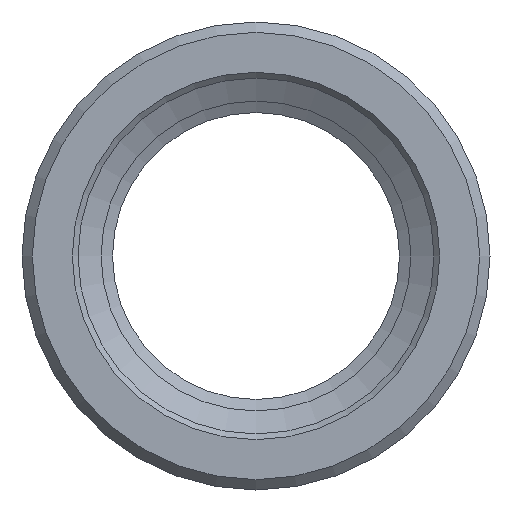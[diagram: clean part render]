
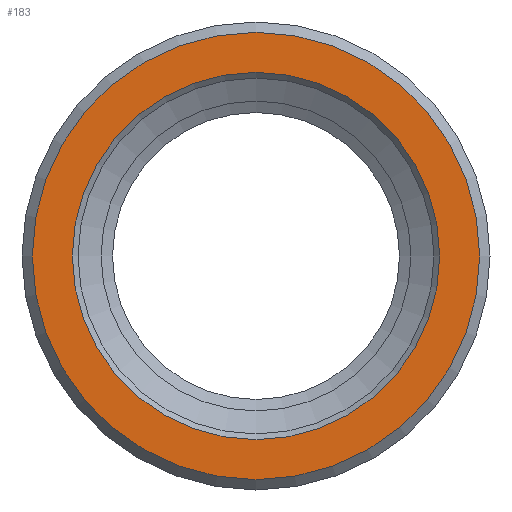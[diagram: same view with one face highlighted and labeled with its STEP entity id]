
A CAD part, left-side view. The second image highlights one B-rep face of the part: STEP entity #183.
In plain terms, the highlighted planar face has unit normal (-1, 0, 0).
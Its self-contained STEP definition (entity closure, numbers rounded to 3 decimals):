
#152=CARTESIAN_POINT('',(0.,32.,0.));
#153=VERTEX_POINT('',#152);
#154=CARTESIAN_POINT('',(0.,0.,0.0));
#155=DIRECTION('',(-1.0,0.0,0.0));
#156=DIRECTION('',(0.0,-1.0,0.0));
#157=AXIS2_PLACEMENT_3D('',#154,#155,#156);
#158=CIRCLE('',#157,32.);
#159=EDGE_CURVE('',#153,#153,#158,.T.);
#164=CARTESIAN_POINT('',(0.,35.884,0.0));
#165=DIRECTION('',(-1.0,0.0,0.0));
#166=DIRECTION('',(0.0,0.0,1.0));
#167=AXIS2_PLACEMENT_3D('',#164,#165,#166);
#168=PLANE('',#167);
#169=CARTESIAN_POINT('',(0.,38.967,0.));
#170=VERTEX_POINT('',#169);
#171=CARTESIAN_POINT('',(0.,0.,0.0));
#172=DIRECTION('',(1.0,0.0,0.0));
#173=DIRECTION('',(0.0,-1.0,0.0));
#174=AXIS2_PLACEMENT_3D('',#171,#172,#173);
#175=CIRCLE('',#174,38.967);
#176=EDGE_CURVE('',#170,#170,#175,.T.);
#177=ORIENTED_EDGE('',*,*,#176,.F.);
#178=EDGE_LOOP('',(#177));
#179=FACE_OUTER_BOUND('',#178,.T.);
#180=ORIENTED_EDGE('',*,*,#159,.F.);
#181=EDGE_LOOP('',(#180));
#182=FACE_BOUND('',#181,.T.);
#183=ADVANCED_FACE('',(#179,#182),#168,.T.);
